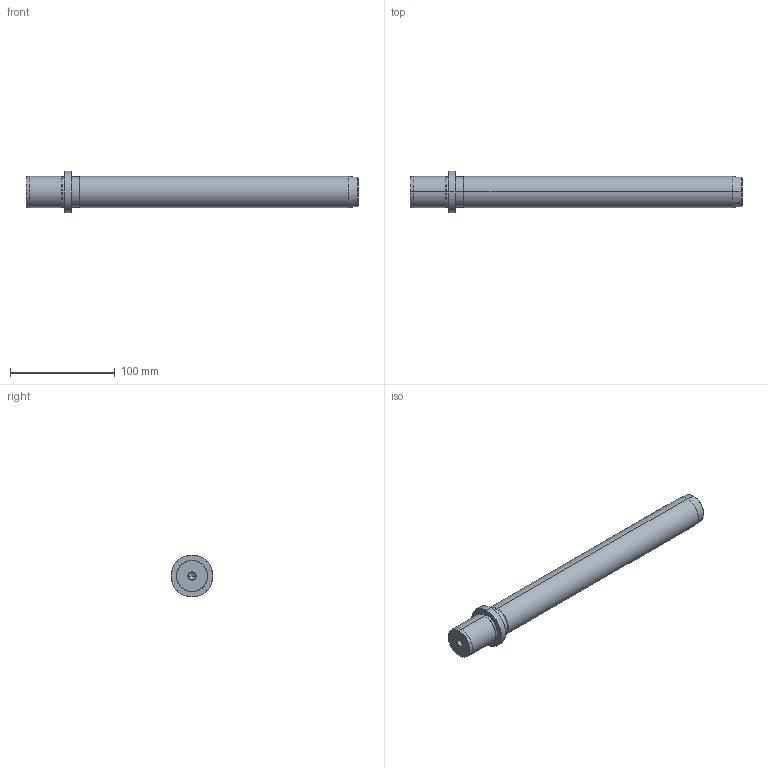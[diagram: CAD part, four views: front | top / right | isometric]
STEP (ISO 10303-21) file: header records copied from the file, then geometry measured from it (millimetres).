
FILE_DESCRIPTION(('CATIA V5 STEP Exchange'),'2;1');
FILE_NAME('C:\Users\Utente\Desktop\IO LAVORO\3D X SITO CF\X SITO\719\719-30x280.stp','2021-01-03T16:03:36+00:00',('none'),('none'),'CATIA Version 5 Release 20 GA (IN-10)','CATIA V5 STEP AP203','none');
FILE_SCHEMA(('CONFIG_CONTROL_DESIGN'));
Length unit declared in the file: millimetre
Products named in the file (1): 719-30x280
Bounding box: 317 x 40 x 40 mm (x, y, z)
Volume: 224563.8 mm3; surface area: 33457.5 mm2
Topology: 1 solids, 1 shells, 36 faces, 100 edges, 66 vertices
Faces by surface type: cone 16, cylinder 14, plane 4, torus 2
Entity records: 1267 total; most frequent: CARTESIAN_POINT 334, ORIENTED_EDGE 192, DIRECTION 159, EDGE_CURVE 96, AXIS2_PLACEMENT_3D 94, VERTEX_POINT 66, CIRCLE 57, EDGE_LOOP 40
